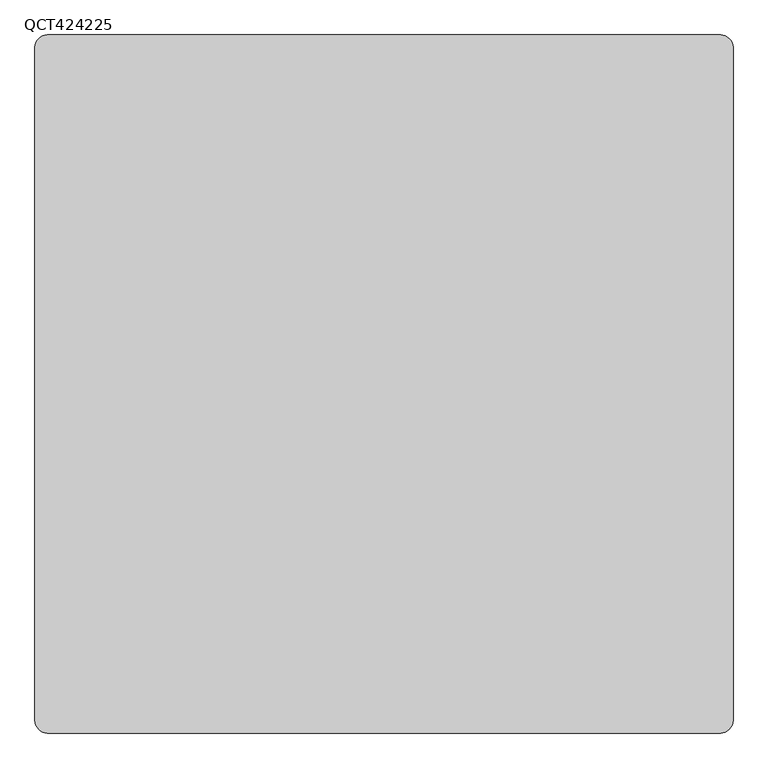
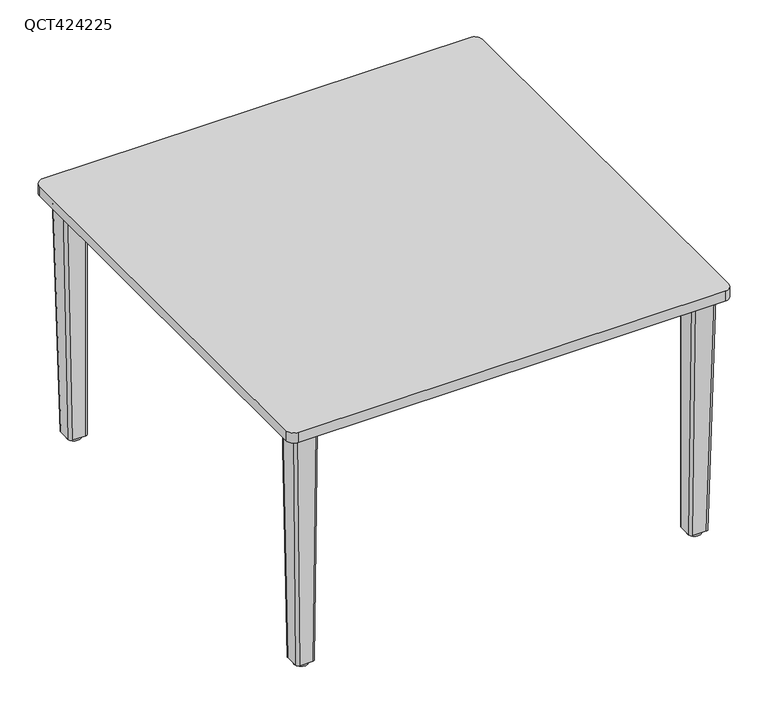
"""IFC4 building model written with IfcOpenShell, lengths in millimetres: furniture geometry, Leland-Quince-Table_Square : QCT424225."""

from ifc_helpers import new_model, si_unit, point, frame, frame_2d, origin, origin_with_axes, place, context, project, spatial, polyline, circle_curve, trimmed, segment, composite_curve, outline, extrude, source, transform, mapped, element, save
from ifc_brep_helpers import plane_surface, cylinder_surface, extruded_surface, advanced_brep


def qct424225_4609f93b(model_context):
    return source(origin(), model_context, "Body", "SolidModel", [
        advanced_brep(
        [(502.4299122, -451.6482078, 604.8487443), (457.9799122, -451.6482078, 604.8487443), (451.6299122, -457.9982078, 604.8487443), (451.6299122, -502.4482078, 604.8487443), (457.9799122, -508.7982078, 604.8487443), (502.4299122, -508.7982078, 604.8487443), (508.7799122, -502.4482078, 604.8487443), (508.7799122, -457.9982078, 604.8487443), (490.1392552, -451.6482078, 9.5377), (496.4892552, -457.9982078, 9.5377), (496.4892552, -490.1651364, 9.5377), (490.1392552, -496.5151364, 9.5377), (457.9799122, -496.5151364, 9.5377), (451.6299122, -490.1651364, 9.5377), (451.6299122, -457.9982078, 9.5377), (457.9799122, -451.6482078, 9.5377)],
        [
            (0, 1),
            (1, 2, circle_curve(frame((457.9799122, -457.9982078, 604.8487443), z_axis=(0.0, 0.0, 1.0), x_axis=(-1.0, 0.0, 0.0)), 6.35)),
            (2, 3),
            (3, 4, circle_curve(frame((457.9799122, -502.4482078, 604.8487443), z_axis=(0.0, 0.0, 1.0), x_axis=(-1.0, 0.0, 0.0)), 6.35)),
            (4, 5),
            (5, 6, circle_curve(frame((502.4299122, -502.4482078, 604.8487443), z_axis=(0.0, 0.0, 1.0), x_axis=(-1.0, 0.0, 0.0)), 6.35)),
            (6, 7),
            (7, 0, circle_curve(frame((502.4299122, -457.9982078, 604.8487443), z_axis=(0.0, 0.0, 1.0), x_axis=(-1.0, 0.0, 0.0)), 6.35)),
            (8, 9, circle_curve(frame((490.1392552, -457.9982078, 9.5377), z_axis=(0.0, 0.0, -1.0), x_axis=(-1.0, 0.0, 0.0)), 6.35)),
            (9, 10),
            (10, 11, circle_curve(frame((490.1392552, -490.1651364, 9.5377), z_axis=(0.0, 0.0, -1.0), x_axis=(-1.0, 0.0, 0.0)), 6.35)),
            (11, 12),
            (12, 13, circle_curve(frame((457.9799122, -490.1651364, 9.5377), z_axis=(0.0, 0.0, -1.0), x_axis=(-1.0, 0.0, 0.0)), 6.35)),
            (13, 14),
            (14, 15, circle_curve(frame((457.9799122, -457.9982078, 9.5377), z_axis=(0.0, 0.0, -1.0), x_axis=(-1.0, 0.0, 0.0)), 6.35)),
            (15, 8),
            (8, 0),
            (7, 9),
            (6, 10),
            (5, 11),
            (4, 12),
            (3, 13),
            (2, 14),
            (1, 15),
        ],
        [
            plane_surface(frame((480.2049122, -480.2232078, 604.8487443), z_axis=(0.0, 0.0, 1.0), x_axis=(1.0, 0.0, 0.0))),
            plane_surface(frame((474.0595837, -474.0816721, 9.5377), z_axis=(0.0, 0.0, -1.0), x_axis=(1.0, 0.0, 0.0))),
            extruded_surface(trimmed(circle_curve(frame((490.1392552, -457.9982078, 9.5377), z_axis=(0.0, 0.0, 1.0), x_axis=(-1.0, 0.0, 0.0)), 6.35), [point((496.4892552, -457.9982078, 9.5377))], [point((490.1392552, -451.6482078, 9.5377))], True, "CARTESIAN"), (12.29065700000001, 0.0, 595.3110443), 595.4379058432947),
            plane_surface(frame((496.4892552, -474.0816721, 9.5377), z_axis=(0.999786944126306, 0.0, -0.020641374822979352), x_axis=(0.0, 1.0, 0.0))),
            extruded_surface(trimmed(circle_curve(frame((490.1392552, -490.1651364, 9.5377), z_axis=(0.0, 0.0, 1.0), x_axis=(-1.0, 0.0, 0.0)), 6.35), [point((490.1392552, -496.5151364, 9.5377))], [point((496.4892552, -490.1651364, 9.5377))], True, "CARTESIAN"), (12.29065700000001, -12.283071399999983, 595.3110443), 595.5645838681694),
            plane_surface(frame((474.0595837, -496.5151364, 9.5377), z_axis=(0.0, -0.9997872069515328, -0.020628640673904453), x_axis=(1.0, 0.0, 0.0))),
            extruded_surface(trimmed(circle_curve(frame((457.9799122, -490.1651364, 9.5377), z_axis=(0.0, 0.0, 1.0), x_axis=(-1.0, 0.0, 0.0)), 6.35), [point((451.6299122, -490.1651364, 9.5377))], [point((457.9799122, -496.5151364, 9.5377))], True, "CARTESIAN"), (0.0, -12.283071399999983, 595.3110443), 595.4377493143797),
            plane_surface(frame((451.6299122, -474.0816721, 9.5377), z_axis=(-1.0, 0.0, 0.0), x_axis=(0.0, -1.0, 0.0))),
            cylinder_surface(frame((457.9799122, -457.9982078, 9.5377), z_axis=(0.0, 0.0, 1.0), x_axis=(-1.0, 0.0, 0.0)), 6.35),
            plane_surface(frame((474.0595837, -451.6482078, 9.5377), z_axis=(0.0, 1.0, 0.0), x_axis=(-1.0, 0.0, 0.0))),
        ],
        [
            (0, [[1, 2, 3, 4, 5, 6, 7, 8]]),
            (1, [[9, 10, 11, 12, 13, 14, 15, 16]]),
            (2, [[-9, 17, -8, 18]]),
            (3, [[-10, -18, -7, 19]]),
            (4, [[-11, -19, -6, 20]]),
            (5, [[-12, -20, -5, 21]]),
            (6, [[-13, -21, -4, 22]]),
            (7, [[-14, -22, -3, 23]]),
            (8, [[-15, -23, -2, 24]]),
            (9, [[-16, -24, -1, -17]]),
        ],
    ),
        advanced_brep(
        [(-502.4299122, -451.6482078, 604.8487443), (-508.7799122, -457.9982078, 604.8487443), (-508.7799122, -502.4482078, 604.8487443), (-502.4299122, -508.7982078, 604.8487443), (-457.9799122, -508.7982078, 604.8487443), (-451.6299122, -502.4482078, 604.8487443), (-451.6299122, -457.9982078, 604.8487443), (-457.9799122, -451.6482078, 604.8487443), (-490.1392552, -451.6482078, 9.5377), (-457.9799122, -451.6482078, 9.5377), (-451.6299122, -457.9982078, 9.5377), (-451.6299122, -490.1651364, 9.5377), (-457.9799122, -496.5151364, 9.5377), (-490.1392552, -496.5151364, 9.5377), (-496.4892552, -490.1651364, 9.5377), (-496.4892552, -457.9982078, 9.5377)],
        [
            (0, 1, circle_curve(frame((-502.4299122, -457.9982078, 604.8487443), z_axis=(0.0, 0.0, 1.0), x_axis=(1.0, 0.0, 0.0)), 6.35)),
            (1, 2),
            (2, 3, circle_curve(frame((-502.4299122, -502.4482078, 604.8487443), z_axis=(0.0, 0.0, 1.0), x_axis=(1.0, 0.0, 0.0)), 6.35)),
            (3, 4),
            (4, 5, circle_curve(frame((-457.9799122, -502.4482078, 604.8487443), z_axis=(0.0, 0.0, 1.0), x_axis=(1.0, 0.0, 0.0)), 6.35)),
            (5, 6),
            (6, 7, circle_curve(frame((-457.9799122, -457.9982078, 604.8487443), z_axis=(0.0, 0.0, 1.0), x_axis=(0.0, 1.0, 0.0)), 6.35)),
            (7, 0),
            (8, 9),
            (9, 10, circle_curve(frame((-457.9799122, -457.9982078, 9.5377), z_axis=(0.0, 0.0, -1.0), x_axis=(0.0, 1.0, 0.0)), 6.35)),
            (10, 11),
            (11, 12, circle_curve(frame((-457.9799122, -490.1651364, 9.5377), z_axis=(0.0, 0.0, -1.0), x_axis=(1.0, 0.0, 0.0)), 6.35)),
            (12, 13),
            (13, 14, circle_curve(frame((-490.1392552, -490.1651364, 9.5377), z_axis=(0.0, 0.0, -1.0), x_axis=(1.0, 0.0, 0.0)), 6.35)),
            (14, 15),
            (15, 8, circle_curve(frame((-490.1392552, -457.9982078, 9.5377), z_axis=(0.0, 0.0, -1.0), x_axis=(1.0, 0.0, 0.0)), 6.35)),
            (15, 1),
            (0, 8),
            (14, 2),
            (13, 3),
            (12, 4),
            (11, 5),
            (10, 6),
            (9, 7),
        ],
        [
            plane_surface(frame((-480.2049122, -480.2232078, 604.8487443), z_axis=(0.0, 0.0, 1.0), x_axis=(1.0, 0.0, 0.0))),
            plane_surface(frame((-474.0595837, -474.0816721, 9.5377), z_axis=(0.0, 0.0, -1.0), x_axis=(1.0, 0.0, 0.0))),
            extruded_surface(trimmed(circle_curve(frame((-490.1392552, -457.9982078, 9.5377), z_axis=(0.0, 0.0, 1.0), x_axis=(1.0, 0.0, 0.0)), 6.35), [point((-490.1392552, -451.6482078, 9.5377))], [point((-496.4892552, -457.9982078, 9.5377))], True, "CARTESIAN"), (-12.29065700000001, 0.0, 595.3110443), 595.4379058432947),
            plane_surface(frame((-496.4892552, -474.0816721, 9.5377), z_axis=(-0.999786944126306, 0.0, -0.020641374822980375), x_axis=(0.0, -1.0, 0.0))),
            extruded_surface(trimmed(circle_curve(frame((-490.1392552, -490.1651364, 9.5377), z_axis=(0.0, 0.0, 1.0), x_axis=(1.0, 0.0, 0.0)), 6.35), [point((-496.4892552, -490.1651364, 9.5377))], [point((-490.1392552, -496.5151364, 9.5377))], True, "CARTESIAN"), (-12.29065700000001, -12.283071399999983, 595.3110443), 595.5645838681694),
            plane_surface(frame((-474.0595837, -496.5151364, 9.5377), z_axis=(0.0, -0.9997872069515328, -0.020628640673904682), x_axis=(1.0, 0.0, 0.0))),
            extruded_surface(trimmed(circle_curve(frame((-457.9799122, -490.1651364, 9.5377), z_axis=(0.0, 0.0, 1.0), x_axis=(1.0, 0.0, 0.0)), 6.35), [point((-457.9799122, -496.5151364, 9.5377))], [point((-451.6299122, -490.1651364, 9.5377))], True, "CARTESIAN"), (0.0, -12.283071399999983, 595.3110443), 595.4377493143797),
            plane_surface(frame((-451.6299122, -474.0816721, 9.5377), z_axis=(1.0, 0.0, 0.0), x_axis=(0.0, 1.0, 0.0))),
            cylinder_surface(frame((-457.9799122, -457.9982078, 9.5377), z_axis=(0.0, 0.0, 1.0), x_axis=(0.0, 1.0, 0.0)), 6.35),
            plane_surface(frame((-474.0595837, -451.6482078, 9.5377), z_axis=(0.0, 1.0, 0.0), x_axis=(-1.0, 0.0, 0.0))),
        ],
        [
            (0, [[1, 2, 3, 4, 5, 6, 7, 8]]),
            (1, [[9, 10, 11, 12, 13, 14, 15, 16]]),
            (2, [[-16, 17, -1, 18]]),
            (3, [[-15, 19, -2, -17]]),
            (4, [[-14, 20, -3, -19]]),
            (5, [[-13, 21, -4, -20]]),
            (6, [[-12, 22, -5, -21]]),
            (7, [[-11, 23, -6, -22]]),
            (8, [[-10, 24, -7, -23]]),
            (9, [[-9, -18, -8, -24]]),
        ],
    ),
        advanced_brep(
        [(502.4299122, 451.6482078, 604.8487443), (508.7799122, 457.9982078, 604.8487443), (508.7799122, 502.4482078, 604.8487443), (502.4299122, 508.7982078, 604.8487443), (457.9799122, 508.7982078, 604.8487443), (451.6299122, 502.4482078, 604.8487443), (451.6299122, 457.9982078, 604.8487443), (457.9799122, 451.6482078, 604.8487443), (490.1392552, 451.6482078, 9.5377), (457.9799122, 451.6482078, 9.5377), (451.6299122, 457.9982078, 9.5377), (451.6299122, 490.1651364, 9.5377), (457.9799122, 496.5151364, 9.5377), (490.1392552, 496.5151364, 9.5377), (496.4892552, 490.1651364, 9.5377), (496.4892552, 457.9982078, 9.5377)],
        [
            (0, 1, circle_curve(frame((502.4299122, 457.9982078, 604.8487443), z_axis=(0.0, 0.0, 1.0), x_axis=(-1.0, 0.0, 0.0)), 6.35)),
            (1, 2),
            (2, 3, circle_curve(frame((502.4299122, 502.4482078, 604.8487443), z_axis=(0.0, 0.0, 1.0), x_axis=(-1.0, 0.0, 0.0)), 6.35)),
            (3, 4),
            (4, 5, circle_curve(frame((457.9799122, 502.4482078, 604.8487443), z_axis=(0.0, 0.0, 1.0), x_axis=(-1.0, 0.0, 0.0)), 6.35)),
            (5, 6),
            (6, 7, circle_curve(frame((457.9799122, 457.9982078, 604.8487443), z_axis=(0.0, 0.0, 1.0), x_axis=(0.0, -1.0, 0.0)), 6.35)),
            (7, 0),
            (8, 9),
            (9, 10, circle_curve(frame((457.9799122, 457.9982078, 9.5377), z_axis=(0.0, 0.0, -1.0), x_axis=(0.0, -1.0, 0.0)), 6.35)),
            (10, 11),
            (11, 12, circle_curve(frame((457.9799122, 490.1651364, 9.5377), z_axis=(0.0, 0.0, -1.0), x_axis=(-1.0, 0.0, 0.0)), 6.35)),
            (12, 13),
            (13, 14, circle_curve(frame((490.1392552, 490.1651364, 9.5377), z_axis=(0.0, 0.0, -1.0), x_axis=(-1.0, 0.0, 0.0)), 6.35)),
            (14, 15),
            (15, 8, circle_curve(frame((490.1392552, 457.9982078, 9.5377), z_axis=(0.0, 0.0, -1.0), x_axis=(-1.0, 0.0, 0.0)), 6.35)),
            (15, 1),
            (0, 8),
            (14, 2),
            (13, 3),
            (12, 4),
            (11, 5),
            (10, 6),
            (9, 7),
        ],
        [
            plane_surface(frame((480.2049122, 480.2232078, 604.8487443), z_axis=(0.0, 0.0, 1.0), x_axis=(-1.0, 0.0, 0.0))),
            plane_surface(frame((474.0595837, 474.0816721, 9.5377), z_axis=(0.0, 0.0, -1.0), x_axis=(-1.0, 0.0, 0.0))),
            extruded_surface(trimmed(circle_curve(frame((490.1392552, 457.9982078, 9.5377), z_axis=(0.0, 0.0, 1.0), x_axis=(-1.0, 0.0, 0.0)), 6.35), [point((490.1392552, 451.6482078, 9.5377))], [point((496.4892552, 457.9982078, 9.5377))], True, "CARTESIAN"), (12.29065700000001, 0.0, 595.3110443), 595.4379058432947),
            plane_surface(frame((496.4892552, 474.0816721, 9.5377), z_axis=(0.999786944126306, 0.0, -0.020641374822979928), x_axis=(0.0, 1.0, 0.0))),
            extruded_surface(trimmed(circle_curve(frame((490.1392552, 490.1651364, 9.5377), z_axis=(0.0, 0.0, 1.0), x_axis=(-1.0, 0.0, 0.0)), 6.35), [point((496.4892552, 490.1651364, 9.5377))], [point((490.1392552, 496.5151364, 9.5377))], True, "CARTESIAN"), (12.29065700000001, 12.283071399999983, 595.3110443), 595.5645838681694),
            plane_surface(frame((474.0595837, 496.5151364, 9.5377), z_axis=(0.0, 0.9997872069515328, -0.020628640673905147), x_axis=(-1.0, 0.0, 0.0))),
            extruded_surface(trimmed(circle_curve(frame((457.9799122, 490.1651364, 9.5377), z_axis=(0.0, 0.0, 1.0), x_axis=(-1.0, 0.0, 0.0)), 6.35), [point((457.9799122, 496.5151364, 9.5377))], [point((451.6299122, 490.1651364, 9.5377))], True, "CARTESIAN"), (0.0, 12.283071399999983, 595.3110443), 595.4377493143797),
            plane_surface(frame((451.6299122, 474.0816721, 9.5377), z_axis=(-1.0, 0.0, 0.0), x_axis=(0.0, -1.0, 0.0))),
            cylinder_surface(frame((457.9799122, 457.9982078, 9.5377), z_axis=(0.0, 0.0, 1.0), x_axis=(0.0, -1.0, 0.0)), 6.35),
            plane_surface(frame((474.0595837, 451.6482078, 9.5377), z_axis=(0.0, -1.0, 0.0), x_axis=(1.0, 0.0, 0.0))),
        ],
        [
            (0, [[1, 2, 3, 4, 5, 6, 7, 8]]),
            (1, [[9, 10, 11, 12, 13, 14, 15, 16]]),
            (2, [[-16, 17, -1, 18]]),
            (3, [[-15, 19, -2, -17]]),
            (4, [[-14, 20, -3, -19]]),
            (5, [[-13, 21, -4, -20]]),
            (6, [[-12, 22, -5, -21]]),
            (7, [[-11, 23, -6, -22]]),
            (8, [[-10, 24, -7, -23]]),
            (9, [[-9, -18, -8, -24]]),
        ],
    ),
        extrude(outline(composite_curve([segment(trimmed(circle_curve(frame_2d((-474.0595837, 474.0816721)), 16.66875), [point((-490.7283337, 474.0816721))], [point((-457.3908337, 474.0816721))], False, "CARTESIAN"), True, "CONTINUOUS"), segment(trimmed(circle_curve(frame_2d((-474.0595837, 474.0816721)), 16.66875), [point((-457.3908337, 474.0816721))], [point((-490.7283337, 474.0816721))], False, "CARTESIAN"), True, "CONTINUOUS")], self_intersect=False)), origin_with_axes(), (0.0, 0.0, 1.0), 9.5377),
        extrude(outline(composite_curve([segment(trimmed(circle_curve(frame_2d((474.0595837, 474.0816721)), 16.66875), [point((457.3908337, 474.0816721))], [point((490.7283337, 474.0816721))], False, "CARTESIAN"), True, "CONTINUOUS"), segment(trimmed(circle_curve(frame_2d((474.0595837, 474.0816721)), 16.66875), [point((490.7283337, 474.0816721))], [point((457.3908337, 474.0816721))], False, "CARTESIAN"), True, "CONTINUOUS")], self_intersect=False)), origin_with_axes(), (0.0, 0.0, 1.0), 9.5377),
        extrude(outline(composite_curve([segment(trimmed(circle_curve(frame_2d((-474.0595837, -474.0816721)), 16.66875), [point((-490.7283337, -474.0816721))], [point((-457.3908337, -474.0816721))], False, "CARTESIAN"), True, "CONTINUOUS"), segment(trimmed(circle_curve(frame_2d((-474.0595837, -474.0816721)), 16.66875), [point((-457.3908337, -474.0816721))], [point((-490.7283337, -474.0816721))], False, "CARTESIAN"), True, "CONTINUOUS")], self_intersect=False)), origin_with_axes(), (0.0, 0.0, 1.0), 9.5377),
        extrude(outline(composite_curve([segment(trimmed(circle_curve(frame_2d((474.0595837, -474.0816721)), 16.66875), [point((457.3908337, -474.0816721))], [point((490.7283337, -474.0816721))], False, "CARTESIAN"), True, "CONTINUOUS"), segment(trimmed(circle_curve(frame_2d((474.0595837, -474.0816721)), 16.66875), [point((490.7283337, -474.0816721))], [point((457.3908337, -474.0816721))], False, "CARTESIAN"), True, "CONTINUOUS")], self_intersect=False)), origin_with_axes(), (0.0, 0.0, 1.0), 9.5377),
        extrude(outline(polyline([(-404.01875, 505.61875), (-404.01875, 404.01875), (-505.61875, 404.01875), (-505.61875, 505.61875), (-404.01875, 505.61875)])), frame((0.0, 0.0, 604.8487443), z_axis=(0.0, 0.0, 1.0), x_axis=(1.0, 0.0, 0.0)), (0.0, 0.0, 1.0), 4.7625),
        extrude(outline(polyline([(404.01875, 505.61875), (505.61875, 505.61875), (505.61875, 404.01875), (404.01875, 404.01875), (404.01875, 505.61875)])), frame((0.0, 0.0, 604.8487443), z_axis=(0.0, 0.0, 1.0), x_axis=(1.0, 0.0, 0.0)), (0.0, 0.0, 1.0), 4.7625),
        extrude(outline(polyline([(-404.01875, -505.61875), (-505.61875, -505.61875), (-505.61875, -404.01875), (-404.01875, -404.01875), (-404.01875, -505.61875)])), frame((0.0, 0.0, 604.8487443), z_axis=(0.0, 0.0, 1.0), x_axis=(1.0, 0.0, 0.0)), (0.0, 0.0, 1.0), 4.7625),
        extrude(outline(polyline([(404.01875, -505.61875), (404.01875, -404.01875), (505.61875, -404.01875), (505.61875, -505.61875), (404.01875, -505.61875)])), frame((0.0, 0.0, 604.8487443), z_axis=(0.0, 0.0, 1.0), x_axis=(1.0, 0.0, 0.0)), (0.0, 0.0, 1.0), 4.7625),
        advanced_brep(
        [(-502.4299122, 451.6482078, 604.8487443), (-457.9799122, 451.6482078, 604.8487443), (-451.6299122, 457.9982078, 604.8487443), (-451.6299122, 502.4482078, 604.8487443), (-457.9799122, 508.7982078, 604.8487443), (-502.4299122, 508.7982078, 604.8487443), (-508.7799122, 502.4482078, 604.8487443), (-508.7799122, 457.9982078, 604.8487443), (-490.1392552, 451.6482078, 9.5377), (-496.4892552, 457.9982078, 9.5377), (-496.4892552, 490.1651364, 9.5377), (-490.1392552, 496.5151364, 9.5377), (-457.9799122, 496.5151364, 9.5377), (-451.6299122, 490.1651364, 9.5377), (-451.6299122, 457.9982078, 9.5377), (-457.9799122, 451.6482078, 9.5377)],
        [
            (0, 1),
            (1, 2, circle_curve(frame((-457.9799122, 457.9982078, 604.8487443), z_axis=(0.0, 0.0, 1.0), x_axis=(1.0, 0.0, 0.0)), 6.35)),
            (2, 3),
            (3, 4, circle_curve(frame((-457.9799122, 502.4482078, 604.8487443), z_axis=(0.0, 0.0, 1.0), x_axis=(1.0, 0.0, 0.0)), 6.35)),
            (4, 5),
            (5, 6, circle_curve(frame((-502.4299122, 502.4482078, 604.8487443), z_axis=(0.0, 0.0, 1.0), x_axis=(1.0, 0.0, 0.0)), 6.35)),
            (6, 7),
            (7, 0, circle_curve(frame((-502.4299122, 457.9982078, 604.8487443), z_axis=(0.0, 0.0, 1.0), x_axis=(1.0, 0.0, 0.0)), 6.35)),
            (8, 9, circle_curve(frame((-490.1392552, 457.9982078, 9.5377), z_axis=(0.0, 0.0, -1.0), x_axis=(1.0, 0.0, 0.0)), 6.35)),
            (9, 10),
            (10, 11, circle_curve(frame((-490.1392552, 490.1651364, 9.5377), z_axis=(0.0, 0.0, -1.0), x_axis=(1.0, 0.0, 0.0)), 6.35)),
            (11, 12),
            (12, 13, circle_curve(frame((-457.9799122, 490.1651364, 9.5377), z_axis=(0.0, 0.0, -1.0), x_axis=(1.0, 0.0, 0.0)), 6.35)),
            (13, 14),
            (14, 15, circle_curve(frame((-457.9799122, 457.9982078, 9.5377), z_axis=(0.0, 0.0, -1.0), x_axis=(1.0, 0.0, 0.0)), 6.35)),
            (15, 8),
            (8, 0),
            (7, 9),
            (6, 10),
            (5, 11),
            (4, 12),
            (3, 13),
            (2, 14),
            (1, 15),
        ],
        [
            plane_surface(frame((-480.2049122, 480.2232078, 604.8487443), z_axis=(0.0, 0.0, 1.0), x_axis=(-1.0, 0.0, 0.0))),
            plane_surface(frame((-474.0595837, 474.0816721, 9.5377), z_axis=(0.0, 0.0, -1.0), x_axis=(-1.0, 0.0, 0.0))),
            extruded_surface(trimmed(circle_curve(frame((-490.1392552, 457.9982078, 9.5377), z_axis=(0.0, 0.0, 1.0), x_axis=(1.0, 0.0, 0.0)), 6.35), [point((-496.4892552, 457.9982078, 9.5377))], [point((-490.1392552, 451.6482078, 9.5377))], True, "CARTESIAN"), (-12.29065700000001, 0.0, 595.3110443), 595.4379058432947),
            plane_surface(frame((-496.4892552, 474.0816721, 9.5377), z_axis=(-0.999786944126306, 0.0, -0.020641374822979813), x_axis=(0.0, -1.0, 0.0))),
            extruded_surface(trimmed(circle_curve(frame((-490.1392552, 490.1651364, 9.5377), z_axis=(0.0, 0.0, 1.0), x_axis=(1.0, 0.0, 0.0)), 6.35), [point((-490.1392552, 496.5151364, 9.5377))], [point((-496.4892552, 490.1651364, 9.5377))], True, "CARTESIAN"), (-12.29065700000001, 12.283071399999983, 595.3110443), 595.5645838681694),
            plane_surface(frame((-474.0595837, 496.5151364, 9.5377), z_axis=(0.0, 0.9997872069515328, -0.020628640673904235), x_axis=(-1.0, 0.0, 0.0))),
            extruded_surface(trimmed(circle_curve(frame((-457.9799122, 490.1651364, 9.5377), z_axis=(0.0, 0.0, 1.0), x_axis=(1.0, 0.0, 0.0)), 6.35), [point((-451.6299122, 490.1651364, 9.5377))], [point((-457.9799122, 496.5151364, 9.5377))], True, "CARTESIAN"), (0.0, 12.283071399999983, 595.3110443), 595.4377493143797),
            plane_surface(frame((-451.6299122, 474.0816721, 9.5377), z_axis=(1.0, 0.0, 0.0), x_axis=(0.0, 1.0, 0.0))),
            cylinder_surface(frame((-457.9799122, 457.9982078, 9.5377), z_axis=(0.0, 0.0, 1.0), x_axis=(1.0, 0.0, 0.0)), 6.35),
            plane_surface(frame((-474.0595837, 451.6482078, 9.5377), z_axis=(0.0, -1.0, 0.0), x_axis=(1.0, 0.0, 0.0))),
        ],
        [
            (0, [[1, 2, 3, 4, 5, 6, 7, 8]]),
            (1, [[9, 10, 11, 12, 13, 14, 15, 16]]),
            (2, [[-9, 17, -8, 18]]),
            (3, [[-10, -18, -7, 19]]),
            (4, [[-11, -19, -6, 20]]),
            (5, [[-12, -20, -5, 21]]),
            (6, [[-13, -21, -4, 22]]),
            (7, [[-14, -22, -3, 23]]),
            (8, [[-15, -23, -2, 24]]),
            (9, [[-16, -24, -1, -17]]),
        ],
    ),
        extrude(outline(composite_curve([segment(trimmed(circle_curve(frame_2d((514.35, 514.35)), 19.05), [point((514.35, 533.4))], [point((533.4, 514.35))], False, "CARTESIAN"), True, "CONTINUOUS"), segment(polyline([(533.4, 514.35), (533.4, -514.35)]), True, "CONTINUOUS"), segment(trimmed(circle_curve(frame_2d((514.35, -514.35)), 19.05), [point((533.4, -514.35))], [point((514.35, -533.4))], False, "CARTESIAN"), True, "CONTINUOUS"), segment(polyline([(514.35, -533.4), (-514.35, -533.4)]), True, "CONTINUOUS"), segment(trimmed(circle_curve(frame_2d((-514.35, -514.35)), 19.05), [point((-514.35, -533.4))], [point((-533.4, -514.35))], False, "CARTESIAN"), True, "CONTINUOUS"), segment(polyline([(-533.4, -514.35), (-533.4, 514.35)]), True, "CONTINUOUS"), segment(trimmed(circle_curve(frame_2d((-514.35, 514.35)), 19.05), [point((-533.4, 514.35))], [point((-514.35, 533.4))], False, "CARTESIAN"), True, "CONTINUOUS"), segment(polyline([(-514.35, 533.4), (514.35, 533.4)]), True, "CONTINUOUS")], self_intersect=False)), frame((0.0, 0.0, 609.6112443), z_axis=(0.0, 0.0, 1.0), x_axis=(1.0, 0.0, 0.0)), (0.0, 0.0, 1.0), 25.3887557),
    ])


if __name__ == "__main__":
    model = new_model("IFC4")
    model_context = context("Model", 3, world=origin())
    ifc_project = project(units=[si_unit("LENGTHUNIT", "METRE", prefix="MILLI")], contexts=[model_context])
    site = spatial("IfcSite", under=ifc_project)
    building = spatial("IfcBuilding", under=site)
    placement = place(None, origin())
    qct424225_shape = qct424225_4609f93b(model_context)
    element("IfcFurniture", 1, ObjectType="Leland-Quince-Table_Square : QCT424225", at=placement, inside=building, context=model_context, shape_type="MappedRepresentation", body=[
        mapped(qct424225_shape, transform((0.0, 0.0, 0.0), x_axis=(1.0, 0.0, 0.0), y_axis=(0.0, 1.0, 0.0), z_axis=(0.0, 0.0, 1.0))),
    ])
    save(model, "model.ifc")
